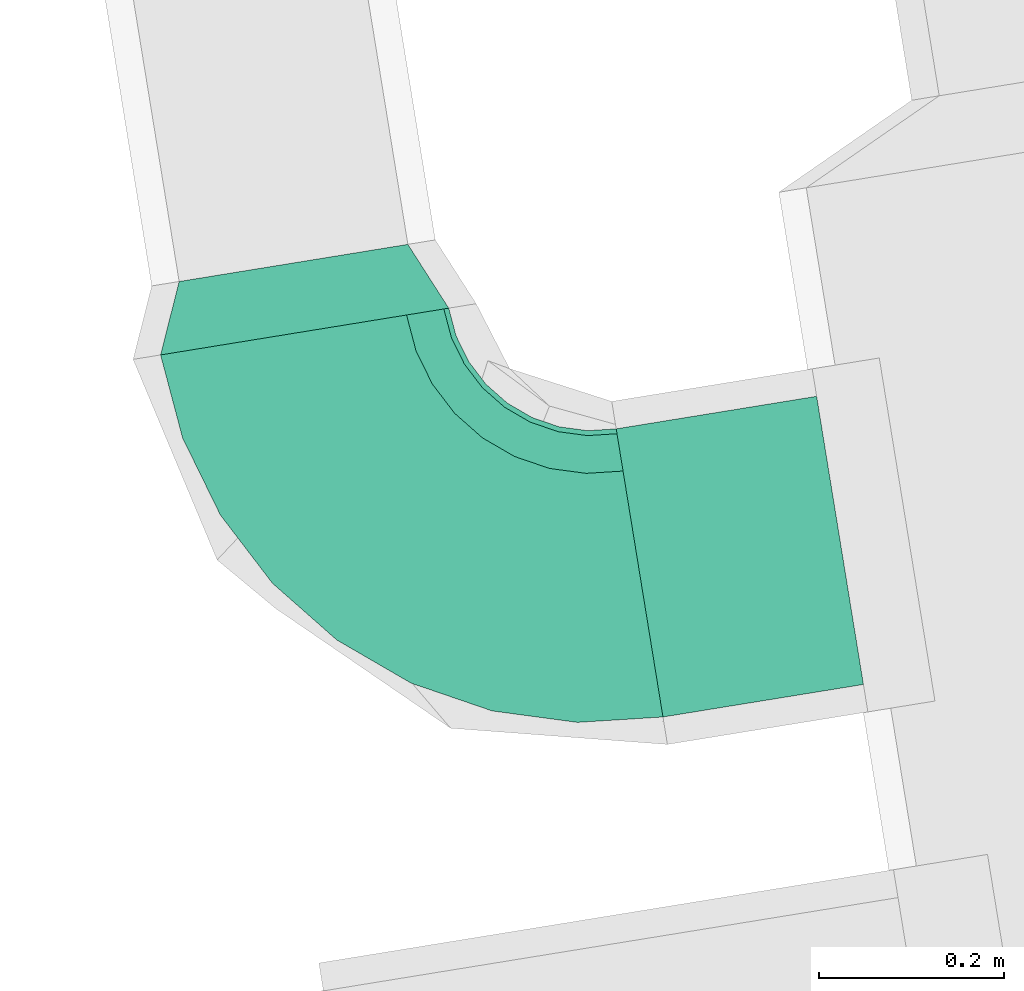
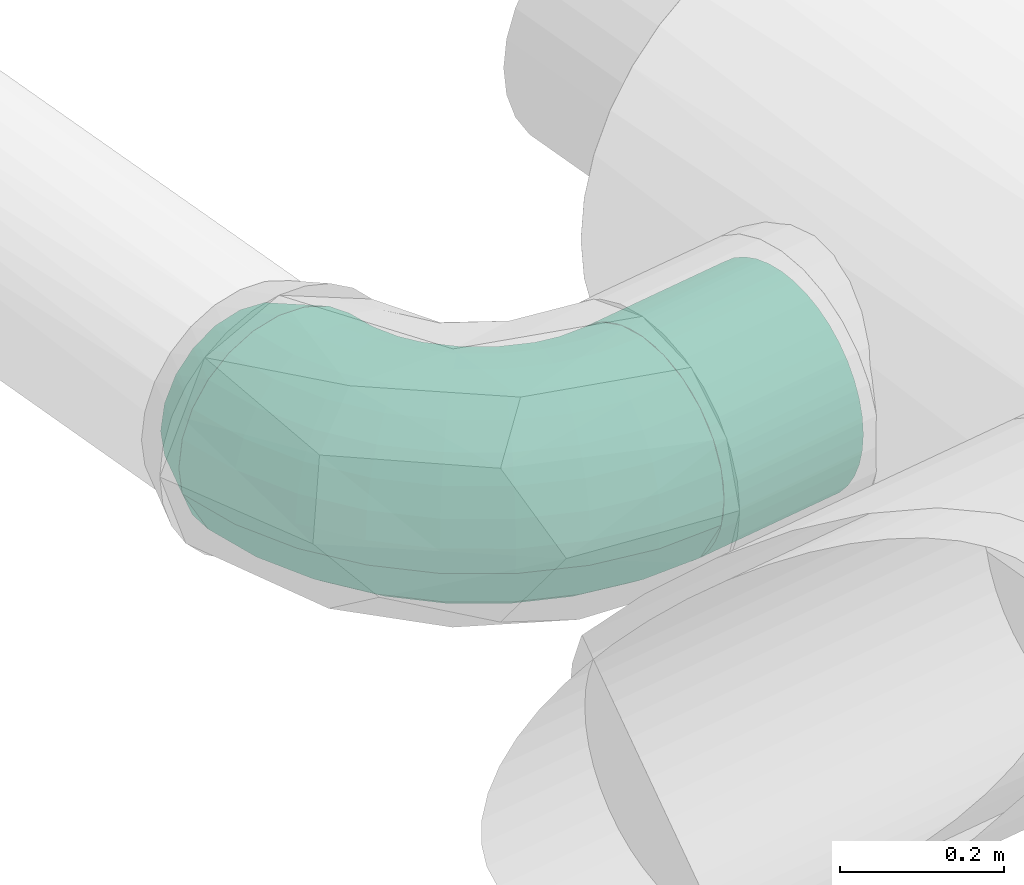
# One storey, part 19 of 39: 2 flow fittings, 1 flow segment.
"""IFC2X3 building model written with IfcOpenShell, lengths in millimetres."""

from ifc_helpers import new_model, entity, si_unit, converted_unit, derived_unit, direction, frame, origin, origin_with_axes, origin_2d_with_axis, place, context, subcontext, project, spatial, circle, extrude, faceted_brep, source, transform, mapped, material, type_object, element, save


model = new_model("IFC2X3")

# Units and contexts
plan_context = context("Plan", 3, precision=1e-05, world=origin_with_axes())
model_context = context("Model", 3, precision=0.01, world=origin(), true_north=direction((6.12323399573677e-17, 1.0)))
body_context = subcontext(model_context, "Body", "Model", "MODEL_VIEW")
ifc_project = project(units=[converted_unit("PLANEANGLEUNIT", "DEGREE", entity("IfcPositiveLengthMeasure", 0.0174532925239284), si_unit("PLANEANGLEUNIT", "RADIAN"), dimensions=[0, 0, 0, 0, 0, 0, 0]), si_unit("AREAUNIT", "SQUARE_METRE"), si_unit("LENGTHUNIT", "METRE", prefix="MILLI"), si_unit("MASSUNIT", "GRAM", prefix="KILO"), si_unit("POWERUNIT", "WATT"), si_unit("PRESSUREUNIT", "PASCAL", prefix="KILO"), si_unit("FORCEUNIT", "NEWTON", prefix="KILO"), si_unit("ELECTRICVOLTAGEUNIT", "VOLT"), si_unit("ELECTRICCURRENTUNIT", "AMPERE"), si_unit("THERMODYNAMICTEMPERATUREUNIT", "DEGREE_CELSIUS"), si_unit("TIMEUNIT", "SECOND"), si_unit("VOLUMEUNIT", "CUBIC_METRE"), derived_unit("LINEARVELOCITYUNIT", [(si_unit("LENGTHUNIT", "METRE"), 1), (si_unit("TIMEUNIT", "SECOND"), -1)]), derived_unit("VOLUMETRICFLOWRATEUNIT", [(si_unit("VOLUMEUNIT", "CUBIC_METRE"), 1), (si_unit("TIMEUNIT", "SECOND"), -1)]), derived_unit("THERMALTRANSMITTANCEUNIT", [(si_unit("POWERUNIT", "WATT"), 1), (si_unit("THERMODYNAMICTEMPERATUREUNIT", "KELVIN"), -1), (si_unit("AREAUNIT", "SQUARE_METRE"), -1)]), derived_unit("SOUNDPRESSUREUNIT", [(si_unit("PRESSUREUNIT", "PASCAL"), 1)])], contexts=[model_context, plan_context])

# Site, building, storey
site_placement = place(None, frame((-0.00071070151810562, 0.00438415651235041, 0.0), z_axis=(0.0, 0.0, 1.0), x_axis=(-0.160236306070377, 0.987078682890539, 0.0)))
site = spatial("IfcSite", under=ifc_project, at=site_placement, Name="Default", CompositionType="ELEMENT")
building_placement = place(site_placement, origin_with_axes())
building = spatial("IfcBuilding", under=site, at=building_placement, CompositionType="ELEMENT")
storey_placement = place(building_placement, frame((0.0, 0.0, 58999.9999999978), z_axis=(0.0, 0.0, 1.0), x_axis=(1.0, 0.0, 0.0)))
storey = spatial("IfcBuildingStorey", under=building, at=storey_placement, Name="Nivå F", CompositionType="ELEMENT", Elevation=58999.9999999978)

# Flow fittings
ifc_material_1 = material(Name="<Unnamed>")
duct_fitting_type_1 = type_object("IfcDuctFittingType", Name="magicirc_elbow_full_radius_1:magicirc_elbow_full_radius_001", PredefinedType="NOTDEFINED", material=ifc_material_1)
shared_shape_1 = source(origin(), body_context, "Body", "Brep", [
    faceted_brep([(-222.819822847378, -148.421044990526, 0.0), (-223.866810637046, -143.157481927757, 40.7639996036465), (-315.0, -152.133317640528, 40.7639996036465), (-315.0, -157.5, 0.0), (-226.936423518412, -127.725495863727, 78.7499999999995), (-315.0, -136.399001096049, 78.7499999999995), (-231.819472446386, -103.176751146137, 111.369318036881), (-315.0, -111.369318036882, 111.369318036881), (-238.183185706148, -71.1842041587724, 136.399001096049), (-315.0, -78.7500000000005, 136.399001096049), (-245.593886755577, -33.9280941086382, 152.133317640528), (-315.0, -40.7639996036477, 152.133317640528), (-253.546548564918, 6.0526366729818, 157.5), (-315.0, 0.0, 157.5), (-261.499210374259, 46.033367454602, 152.133317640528), (-315.0, 40.7639996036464, 152.133317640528), (-268.909911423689, 83.2894775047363, 136.399001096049), (-315.0, 78.7499999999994, 136.399001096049), (-275.27362468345, 115.282024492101, 111.369318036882), (-315.0, 111.369318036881, 111.369318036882), (-283.226286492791, 155.262755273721, 40.7639996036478), (-315.0, 152.133317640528, 40.7639996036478), (-284.273274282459, 160.526318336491, 0.0), (-315.0, 157.5, 0.0), (-283.226286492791, 155.262755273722, -40.763999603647), (-315.0, 152.133317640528, -40.763999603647), (-280.156673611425, 139.830769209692, -78.7499999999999), (-315.0, 136.399001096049, -78.7499999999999), (-275.27362468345, 115.282024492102, -111.369318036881), (-315.0, 111.369318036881, -111.369318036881), (-268.909911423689, 83.289477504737, -136.399001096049), (-315.0, 78.7500000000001, -136.399001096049), (-261.499210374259, 46.0333674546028, -152.133317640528), (-315.0, 40.7639996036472, -152.133317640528), (-253.546548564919, 6.05263667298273, -157.5), (-315.0, 0.0, -157.5), (-245.593886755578, -33.9280941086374, -152.133317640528), (-315.0, -40.7639996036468, -152.133317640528), (-238.183185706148, -71.1842041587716, -136.399001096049), (-315.0, -78.7499999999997, -136.399001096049), (-231.819472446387, -103.176751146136, -111.369318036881), (-315.0, -111.369318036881, -111.369318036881), (-223.866810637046, -143.157481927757, -40.7639996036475), (-315.0, -152.133317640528, -40.7639996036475), (-134.182078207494, -121.533079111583, 0.0), (-136.235818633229, -116.574911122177, 40.7639996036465), (-142.25708089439, -102.03829810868, 78.7499999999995), (-151.835525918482, -78.91388622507, 111.369318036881), (-164.318398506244, -48.7775659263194, 136.399001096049), (-178.855011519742, -13.6830776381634, 152.133317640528), (-194.454718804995, 23.9779472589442, 157.5), (-210.054426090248, 61.638972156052, 152.133317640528), (-224.591039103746, 96.7334604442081, 136.399001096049), (-237.073911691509, 126.869780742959, 111.369318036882), (-252.673618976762, 164.530805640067, 40.7639996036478), (-254.727359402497, 169.488973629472, 0.0), (-252.673618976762, 164.530805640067, -40.763999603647), (-246.652356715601, 149.994192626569, -78.7499999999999), (-237.073911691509, 126.86978074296, -111.369318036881), (-224.591039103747, 96.7334604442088, -136.399001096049), (-210.054426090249, 61.6389721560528, -152.133317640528), (-194.454718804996, 23.9779472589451, -157.5), (-178.855011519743, -13.6830776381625, -152.133317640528), (-164.318398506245, -48.7775659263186, -136.399001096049), (-151.835525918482, -78.9138862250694, -111.369318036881), (-136.23581863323, -116.574911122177, -40.7639996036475), (-52.4930648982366, -77.8693918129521, 0.0), (-55.4746338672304, -73.4071585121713, 40.7639996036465), (-64.2161517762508, -60.3245524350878, 78.7499999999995), (-78.1218986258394, -39.5131315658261, 111.369318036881), (-96.24422074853, -12.3911598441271, 136.399001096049), (-117.348111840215, 19.1930451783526, 152.133317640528), (-139.995376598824, 53.087072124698, 157.5), (-162.642641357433, 86.9810990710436, 152.133317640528), (-183.746532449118, 118.565304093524, 136.399001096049), (-201.868854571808, 145.687275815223, 111.369318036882), (-224.516119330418, 179.581302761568, 40.7639996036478), (-227.497688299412, 184.043536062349, 0.0), (-224.516119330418, 179.581302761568, -40.763999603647), (-215.774601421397, 166.498696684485, -78.7499999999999), (-201.868854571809, 145.687275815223, -111.369318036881), (-183.746532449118, 118.565304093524, -136.399001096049), (-162.642641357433, 86.9810990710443, -152.133317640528), (-139.995376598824, 53.0870721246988, -157.5), (-117.348111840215, 19.1930451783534, -152.133317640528), (-96.2442207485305, -12.3911598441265, -136.399001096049), (-78.1218986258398, -39.5131315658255, -111.369318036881), (-55.4746338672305, -73.4071585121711, -40.7639996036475), (19.1079541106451, -19.107954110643, 0.0), (15.3131366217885, -15.3131366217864, 40.7639996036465), (4.18729469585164, -4.18729469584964, 78.7499999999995), (-13.5113639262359, 13.5113639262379, 111.369318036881), (-36.5767049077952, 36.5767049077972, 136.399001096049), (-63.4368633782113, 63.4368633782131, 152.133317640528), (-92.2613639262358, 92.2613639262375, 157.5), (-121.085864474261, 121.085864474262, 152.133317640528), (-147.946022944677, 147.946022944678, 136.399001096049), (-171.011363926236, 171.011363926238, 111.369318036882), (-199.835864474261, 199.835864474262, 40.7639996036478), (-203.630681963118, 203.630681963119, 0.0), (-199.835864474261, 199.835864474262, -40.763999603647), (-188.710022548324, 188.710022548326, -78.7499999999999), (-171.011363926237, 171.011363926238, -111.369318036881), (-147.946022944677, 147.946022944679, -136.399001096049), (-121.085864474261, 121.085864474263, -152.133317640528), (-92.2613639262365, 92.2613639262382, -157.5), (-63.436863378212, 63.4368633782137, -152.133317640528), (-36.5767049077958, 36.5767049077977, -136.399001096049), (-13.5113639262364, 13.5113639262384, -111.369318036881), (15.3131366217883, -15.3131366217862, -40.7639996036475), (77.8693918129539, 52.4930648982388, 0.0), (73.4071585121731, 55.4746338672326, 40.7639996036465), (60.3245524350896, 64.216151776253, 78.7499999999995), (39.5131315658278, 78.1218986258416, 111.369318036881), (12.3911598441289, 96.2442207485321, 136.399001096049), (-19.1930451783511, 117.348111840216, 152.133317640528), (-53.0870721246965, 139.995376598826, 157.5), (-86.9810990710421, 162.642641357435, 152.133317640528), (-118.565304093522, 183.746532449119, 136.399001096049), (-145.687275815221, 201.86885457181, 111.369318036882), (-179.581302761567, 224.516119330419, 40.7639996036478), (-184.043536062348, 227.497688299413, 0.0), (-179.581302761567, 224.516119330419, -40.763999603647), (-166.498696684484, 215.774601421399, -78.7499999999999), (-145.687275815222, 201.86885457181, -111.369318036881), (-118.565304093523, 183.74653244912, -136.399001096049), (-86.9810990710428, 162.642641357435, -152.133317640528), (-53.0870721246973, 139.995376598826, -157.5), (-19.1930451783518, 117.348111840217, -152.133317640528), (12.3911598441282, 96.2442207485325, -136.399001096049), (39.5131315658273, 78.1218986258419, -111.369318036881), (73.4071585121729, 55.4746338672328, -40.7639996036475), (121.533079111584, 134.182078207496, 0.0), (116.574911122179, 136.235818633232, 40.7639996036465), (102.038298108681, 142.257080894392, 78.7499999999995), (78.9138862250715, 151.835525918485, 111.369318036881), (48.7775659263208, 164.318398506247, 136.399001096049), (13.6830776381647, 178.855011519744, 152.133317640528), (-23.9779472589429, 194.454718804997, 157.5), (-61.6389721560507, 210.05442609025, 152.133317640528), (-96.7334604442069, 224.591039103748, 136.399001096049), (-126.869780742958, 237.07391169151, 111.369318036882), (-164.530805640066, 252.673618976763, 40.7639996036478), (-169.488973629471, 254.727359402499, 0.0), (-164.530805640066, 252.673618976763, -40.763999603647), (-149.994192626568, 246.652356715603, -78.7499999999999), (-126.869780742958, 237.07391169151, -111.369318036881), (-96.7334604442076, 224.591039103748, -136.399001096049), (-61.6389721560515, 210.05442609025, -152.133317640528), (-23.9779472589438, 194.454718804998, -157.5), (13.6830776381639, 178.855011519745, -152.133317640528), (48.7775659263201, 164.318398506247, -136.399001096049), (78.9138862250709, 151.835525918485, -111.369318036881), (116.574911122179, 136.235818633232, -40.7639996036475), (148.421044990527, 222.81982284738, 0.0), (143.157481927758, 223.866810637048, 40.7639996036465), (127.725495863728, 226.936423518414, 78.7499999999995), (103.176751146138, 231.819472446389, 111.369318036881), (71.1842041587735, 238.18318570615, 136.399001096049), (33.9280941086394, 245.59388675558, 152.133317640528), (-6.05263667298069, 253.54654856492, 157.5), (-46.0333674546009, 261.499210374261, 152.133317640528), (-83.2894775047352, 268.90991142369, 136.399001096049), (-115.2820244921, 275.273624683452, 111.369318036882), (-155.26275527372, 283.226286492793, 40.7639996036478), (-160.52631833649, 284.27327428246, 0.0), (-155.262755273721, 283.226286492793, -40.763999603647), (-139.83076920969, 280.156673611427, -78.7499999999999), (-115.282024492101, 275.273624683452, -111.369318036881), (-83.2894775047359, 268.90991142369, -136.399001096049), (-46.0333674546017, 261.499210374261, -152.133317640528), (-6.05263667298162, 253.54654856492, -157.5), (33.9280941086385, 245.59388675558, -152.133317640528), (71.1842041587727, 238.183185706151, -136.399001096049), (103.176751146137, 231.819472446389, -111.369318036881), (143.157481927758, 223.866810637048, -40.7639996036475), (157.500000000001, 315.0, 0.0), (152.133317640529, 315.0, 40.7639996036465), (136.39900109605, 315.0, 78.7499999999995), (111.369318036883, 315.0, 111.369318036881), (78.7500000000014, 315.0, 136.399001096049), (40.7639996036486, 315.0, 152.133317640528), (0.0, 315.0, 157.5), (-40.7639996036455, 315.0, 152.133317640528), (-78.7499999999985, 315.0, 136.399001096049), (-111.36931803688, 315.0, 111.369318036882), (-152.133317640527, 315.0, 40.7639996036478), (-157.499999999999, 315.0, 0.0), (-152.133317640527, 315.0, -40.763999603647), (-136.399001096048, 315.0, -78.7499999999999), (-111.36931803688, 315.0, -111.369318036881), (-78.7499999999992, 315.0, -136.399001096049), (-40.7639996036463, 315.0, -152.133317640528), (0.0, 315.0, -157.5), (40.7639996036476, 315.0, -152.133317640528), (78.7500000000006, 315.0, -136.399001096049), (111.369318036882, 315.0, -111.369318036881), (152.133317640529, 315.0, -40.7639996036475)], [[[0, 1, 2, 3]], [[1, 4, 5, 2]], [[4, 6, 7, 5]], [[6, 8, 9, 7]], [[8, 10, 11, 9]], [[10, 12, 13, 11]], [[12, 14, 15, 13]], [[14, 16, 17, 15]], [[16, 18, 19, 17]], [[18, 20, 21, 19]], [[20, 22, 23, 21]], [[22, 24, 25, 23]], [[24, 26, 27, 25]], [[26, 28, 29, 27]], [[28, 30, 31, 29]], [[30, 32, 33, 31]], [[32, 34, 35, 33]], [[34, 36, 37, 35]], [[36, 38, 39, 37]], [[38, 40, 41, 39]], [[40, 42, 43, 41]], [[42, 0, 3, 43]], [[44, 45, 1, 0]], [[45, 46, 4, 1]], [[46, 47, 6, 4]], [[47, 48, 8, 6]], [[48, 49, 10, 8]], [[49, 50, 12, 10]], [[50, 51, 14, 12]], [[51, 52, 16, 14]], [[52, 53, 18, 16]], [[53, 54, 20, 18]], [[54, 55, 22, 20]], [[55, 56, 24, 22]], [[56, 57, 26, 24]], [[57, 58, 28, 26]], [[58, 59, 30, 28]], [[59, 60, 32, 30]], [[60, 61, 34, 32]], [[61, 62, 36, 34]], [[62, 63, 38, 36]], [[63, 64, 40, 38]], [[64, 65, 42, 40]], [[65, 44, 0, 42]], [[66, 67, 45, 44]], [[67, 68, 46, 45]], [[68, 69, 47, 46]], [[69, 70, 48, 47]], [[70, 71, 49, 48]], [[71, 72, 50, 49]], [[72, 73, 51, 50]], [[73, 74, 52, 51]], [[74, 75, 53, 52]], [[75, 76, 54, 53]], [[76, 77, 55, 54]], [[77, 78, 56, 55]], [[78, 79, 57, 56]], [[79, 80, 58, 57]], [[80, 81, 59, 58]], [[81, 82, 60, 59]], [[82, 83, 61, 60]], [[83, 84, 62, 61]], [[84, 85, 63, 62]], [[85, 86, 64, 63]], [[86, 87, 65, 64]], [[87, 66, 44, 65]], [[88, 89, 67, 66]], [[89, 90, 68, 67]], [[90, 91, 69, 68]], [[91, 92, 70, 69]], [[92, 93, 71, 70]], [[93, 94, 72, 71]], [[94, 95, 73, 72]], [[95, 96, 74, 73]], [[96, 97, 75, 74]], [[97, 98, 76, 75]], [[98, 99, 77, 76]], [[99, 100, 78, 77]], [[100, 101, 79, 78]], [[101, 102, 80, 79]], [[102, 103, 81, 80]], [[103, 104, 82, 81]], [[104, 105, 83, 82]], [[105, 106, 84, 83]], [[106, 107, 85, 84]], [[107, 108, 86, 85]], [[108, 109, 87, 86]], [[109, 88, 66, 87]], [[110, 111, 89, 88]], [[111, 112, 90, 89]], [[112, 113, 91, 90]], [[113, 114, 92, 91]], [[114, 115, 93, 92]], [[115, 116, 94, 93]], [[116, 117, 95, 94]], [[117, 118, 96, 95]], [[118, 119, 97, 96]], [[119, 120, 98, 97]], [[120, 121, 99, 98]], [[121, 122, 100, 99]], [[122, 123, 101, 100]], [[123, 124, 102, 101]], [[124, 125, 103, 102]], [[125, 126, 104, 103]], [[126, 127, 105, 104]], [[127, 128, 106, 105]], [[128, 129, 107, 106]], [[129, 130, 108, 107]], [[130, 131, 109, 108]], [[131, 110, 88, 109]], [[132, 133, 111, 110]], [[133, 134, 112, 111]], [[134, 135, 113, 112]], [[135, 136, 114, 113]], [[136, 137, 115, 114]], [[137, 138, 116, 115]], [[138, 139, 117, 116]], [[139, 140, 118, 117]], [[140, 141, 119, 118]], [[141, 142, 120, 119]], [[142, 143, 121, 120]], [[143, 144, 122, 121]], [[144, 145, 123, 122]], [[145, 146, 124, 123]], [[146, 147, 125, 124]], [[147, 148, 126, 125]], [[148, 149, 127, 126]], [[149, 150, 128, 127]], [[150, 151, 129, 128]], [[151, 152, 130, 129]], [[152, 153, 131, 130]], [[153, 132, 110, 131]], [[154, 155, 133, 132]], [[155, 156, 134, 133]], [[156, 157, 135, 134]], [[157, 158, 136, 135]], [[158, 159, 137, 136]], [[159, 160, 138, 137]], [[160, 161, 139, 138]], [[161, 162, 140, 139]], [[162, 163, 141, 140]], [[163, 164, 142, 141]], [[164, 165, 143, 142]], [[165, 166, 144, 143]], [[166, 167, 145, 144]], [[167, 168, 146, 145]], [[168, 169, 147, 146]], [[169, 170, 148, 147]], [[170, 171, 149, 148]], [[171, 172, 150, 149]], [[172, 173, 151, 150]], [[173, 174, 152, 151]], [[174, 175, 153, 152]], [[175, 154, 132, 153]], [[176, 177, 155, 154]], [[177, 178, 156, 155]], [[178, 179, 157, 156]], [[179, 180, 158, 157]], [[180, 181, 159, 158]], [[181, 182, 160, 159]], [[182, 183, 161, 160]], [[183, 184, 162, 161]], [[184, 185, 163, 162]], [[185, 186, 164, 163]], [[186, 187, 165, 164]], [[187, 188, 166, 165]], [[188, 189, 167, 166]], [[189, 190, 168, 167]], [[190, 191, 169, 168]], [[191, 192, 170, 169]], [[192, 193, 171, 170]], [[193, 194, 172, 171]], [[194, 195, 173, 172]], [[195, 196, 174, 173]], [[196, 197, 175, 174]], [[197, 176, 154, 175]], [[3, 2, 5, 7, 9, 11, 13, 15, 17, 19, 21, 23, 25, 27, 29, 31, 33, 35, 37, 39, 41, 43]], [[197, 196, 195, 194, 193, 192, 191, 190, 189, 188, 187, 186, 185, 184, 183, 182, 181, 180, 179, 178, 177, 176]]]),
])
flow_fitting_1_placement = place(storey_placement, frame((776597.222116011, -501304.709617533, 3130.0), z_axis=(0.0, 0.0, 1.0), x_axis=(-1.0, 0.0, 0.0)))
element("IfcFlowFitting", 1, at=flow_fitting_1_placement, inside=storey, type_object=duct_fitting_type_1, material=ifc_material_1, Name="magicirc_elbow_full_radius_1:magicirc_elbow_full_radius_001", ObjectType="magicirc_elbow_full_radius_1:magicirc_elbow_full_radius_001", context=body_context, shape_type="MappedRepresentation", body=[
    mapped(shared_shape_1, transform((0.0, 0.0, 0.0), scale=1.0)),
])
ifc_material_2 = material(Name="Material_Duct")
duct_fitting_type_2 = type_object("IfcDuctFittingType", Name="magicirc_reduction_001:magicirc_reduction_001", PredefinedType="NOTDEFINED", material=ifc_material_2)
shared_shape_2 = source(origin(), body_context, "Body", "Brep", [
    faceted_brep([(75.0, -125.0, 0.0), (75.0, -118.882064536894, -38.6271242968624), (75.0, -101.127124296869, -73.473156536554), (75.0, -73.4731565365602, -101.127124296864), (75.0, -38.627124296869, -118.882064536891), (75.0, 0.0, -125.0), (75.0, 38.6271242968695, -118.882064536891), (75.0, 73.4731565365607, -101.127124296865), (75.0, 101.12712429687, -73.4731565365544), (75.0, 118.882064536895, -38.6271242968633), (75.0, 125.0, 0.0), (75.0, 118.882064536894, 38.6271242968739), (75.0, 101.127124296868, 73.4731565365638), (75.0, 73.4731565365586, 101.127124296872), (75.0, 38.6271242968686, 118.882064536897), (75.0, 0.0, 125.0), (75.0, -38.6271242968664, 118.882064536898), (75.0, -73.4731565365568, 101.127124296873), (75.0, -101.127124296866, 73.4731565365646), (75.0, -118.882064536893, 38.6271242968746), (0.0, 157.499999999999, 0.0), (0.0, 152.133317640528, -40.7639996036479), (0.0, 136.399001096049, -78.7500000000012), (0.0, 111.369318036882, -111.369318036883), (0.0, 78.7500000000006, -136.399001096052), (0.0, 40.7639996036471, -152.133317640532), (0.0, 0.0, -157.500000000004), (0.0, -40.7639996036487, -152.133317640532), (0.0, -78.7500000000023, -136.399001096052), (0.0, -111.369318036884, -111.369318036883), (0.0, -136.399001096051, -78.7500000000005), (0.0, -152.133317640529, -40.7639996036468), (0.0, -157.500000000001, 0.0), (0.0, -152.133317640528, 40.7639996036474), (0.0, -136.399001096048, 78.7499999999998), (0.0, -111.36931803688, 111.36931803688), (0.0, -78.7499999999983, 136.399001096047), (0.0, -40.7639996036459, 152.133317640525), (0.0, 0.0, 157.499999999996), (0.0, 40.7639996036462, 152.133317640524), (0.0, 78.7499999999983, 136.399001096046), (0.0, 111.369318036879, 111.369318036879), (0.0, 136.399001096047, 78.7499999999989), (0.0, 152.133317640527, 40.7639996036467)], [[[0, 1, 2, 3, 4, 5, 6, 7, 8, 9, 10, 11, 12, 13, 14, 15, 16, 17, 18, 19]], [[20, 21, 22, 23, 24, 25, 26, 27, 28, 29, 30, 31, 32, 33, 34, 35, 36, 37, 38, 39, 40, 41, 42, 43]], [[22, 9, 8]], [[21, 10, 9]], [[24, 7, 6]], [[5, 25, 6]], [[8, 7, 23]], [[26, 25, 5]], [[9, 22, 21]], [[21, 20, 10]], [[8, 23, 22]], [[7, 24, 23]], [[24, 6, 25]], [[27, 5, 4]], [[3, 28, 4]], [[1, 0, 31]], [[2, 1, 30]], [[29, 3, 2]], [[28, 27, 4]], [[28, 3, 29]], [[2, 30, 29]], [[1, 31, 30]], [[32, 31, 0]], [[5, 27, 26]], [[34, 19, 18]], [[33, 0, 19]], [[36, 17, 16]], [[15, 37, 16]], [[18, 17, 35]], [[38, 37, 15]], [[19, 34, 33]], [[33, 32, 0]], [[18, 35, 34]], [[17, 36, 35]], [[36, 16, 37]], [[39, 15, 14]], [[13, 40, 14]], [[11, 10, 43]], [[12, 11, 42]], [[41, 13, 12]], [[40, 39, 14]], [[40, 13, 41]], [[12, 42, 41]], [[11, 43, 42]], [[20, 43, 10]], [[15, 39, 38]]]),
])
flow_fitting_2_placement = place(storey_placement, frame((776912.222116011, -501304.709617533, 3130.0), z_axis=(0.0, 0.0, 1.0), x_axis=(1.0, 0.0, 0.0)))
element("IfcFlowFitting", 2, at=flow_fitting_2_placement, inside=storey, type_object=duct_fitting_type_2, material=ifc_material_2, Name="magicirc_reduction_001:magicirc_reduction_001", ObjectType="magicirc_reduction_001:magicirc_reduction_001", context=body_context, shape_type="MappedRepresentation", body=[
    mapped(shared_shape_2, transform((0.0, 0.0, 0.0), scale=1.0)),
])

# Flow segment
duct_segment_type = type_object("IfcDuctSegmentType", Name="Round Duct:KK001T - Spiro kanaler, Forsinket stål", PredefinedType="NOTDEFINED")
flow_segment_placement = place(storey_placement, origin_with_axes())
element("IfcFlowSegment", 3, at=flow_segment_placement, inside=storey, type_object=duct_segment_type, Name="Round Duct:KK001T - Spiro kanaler, Forsinket stål", ObjectType="Round Duct:KK001T - Spiro kanaler, Forsinket stål", context=body_context, shape_type="SweptSolid", body=[
    extrude(circle(Radius=157.5, at=origin_2d_with_axis()), frame((776597.222116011, -501838.834706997, 3130.0), z_axis=(0.0, 1.0, 0.0), x_axis=(-1.0, 0.0, 0.0)), (0.0, 0.0, 1.0), 219.12508946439),
])

save(model, "model.ifc")
